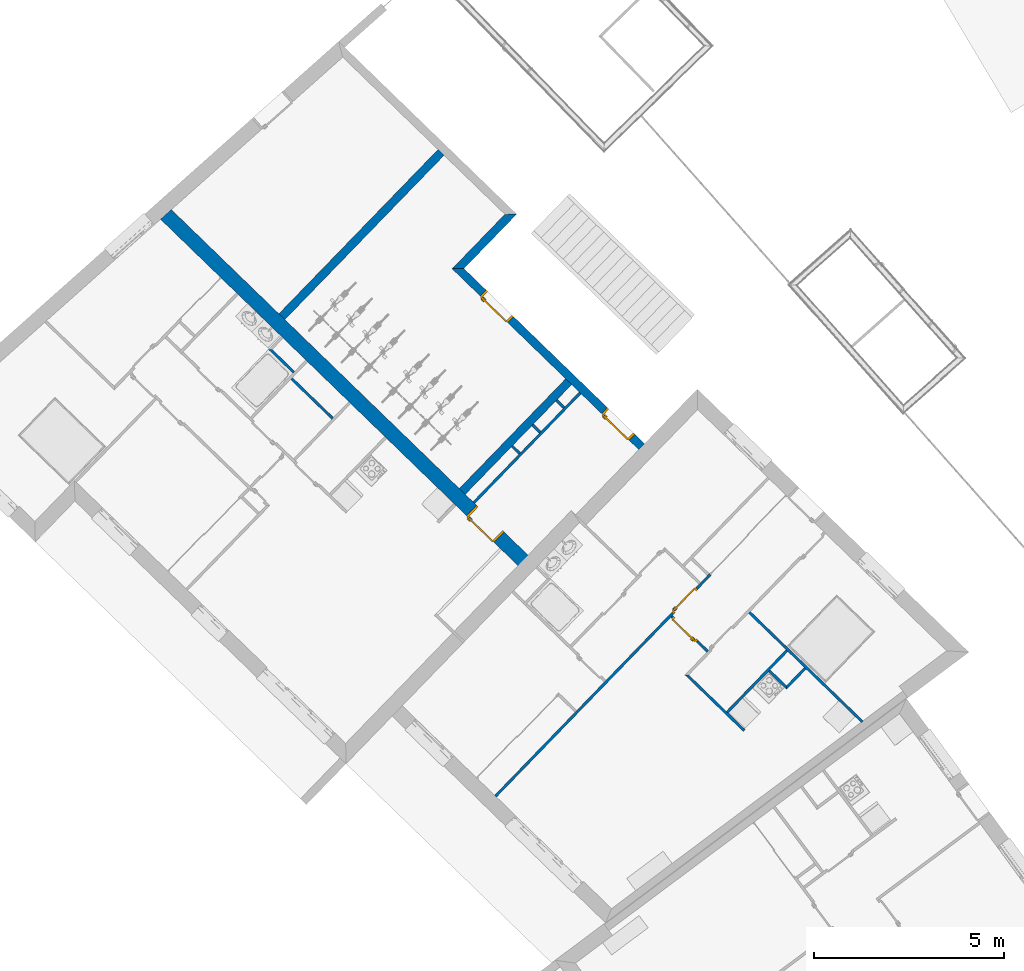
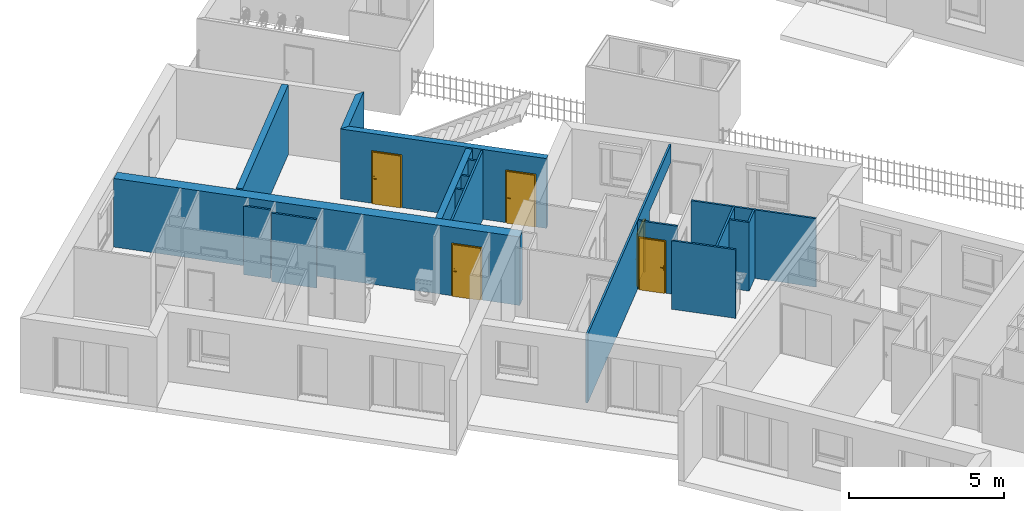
# One storey, part 21 of 195: 18 walls, 5 doors, 6 openings.
"""IFC2X3 building model written with IfcOpenShell, lengths in metres."""

from ifc_helpers import new_model, entity, si_unit, converted_unit, derived_unit, money_unit, direction, frame, origin_with_axes, origin_2d_with_axis, place, context, subcontext, project, spatial, polyline, rectangle, outline, extrude, faceted_brep, source, transform, mapped, material, layer, layer_set, layer_usage, type_object, element, fill, save


model = new_model("IFC2X3")

# Units and contexts
model_context = context("Model", 3, precision=1e-05, world=origin_with_axes(), true_north=direction((0.0, 1.0)))
body_context = subcontext(model_context, "Body", "Model", "MODEL_VIEW")
ifc_project = project(units=[si_unit("LENGTHUNIT", "METRE"), si_unit("AREAUNIT", "SQUARE_METRE"), si_unit("VOLUMEUNIT", "CUBIC_METRE"), converted_unit("PLANEANGLEUNIT", "DEGREE", entity("IfcPlaneAngleMeasure", 0.0174532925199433), si_unit("PLANEANGLEUNIT", "RADIAN"), dimensions=[0, 0, 0, 0, 0, 0, 0]), money_unit("CHF"), converted_unit("TIMEUNIT", "Year", entity("IfcTimeMeasure", 31557600.0), si_unit("TIMEUNIT", "SECOND"), dimensions=[0, 0, 1, 0, 0, 0, 0]), si_unit("MASSUNIT", "GRAM", prefix="KILO"), si_unit("THERMODYNAMICTEMPERATUREUNIT", "DEGREE_CELSIUS"), si_unit("LUMINOUSINTENSITYUNIT", "LUMEN"), si_unit("ENERGYUNIT", "JOULE", prefix="MEGA"), derived_unit("THERMALCONDUCTANCEUNIT", [(si_unit("POWERUNIT", "WATT"), 1), (si_unit("LENGTHUNIT", "METRE"), -1), (si_unit("THERMODYNAMICTEMPERATUREUNIT", "KELVIN"), -1)]), derived_unit("SPECIFICHEATCAPACITYUNIT", [(si_unit("ENERGYUNIT", "JOULE"), 1), (si_unit("MASSUNIT", "GRAM", prefix="KILO"), -1), (si_unit("THERMODYNAMICTEMPERATUREUNIT", "KELVIN"), -1)]), derived_unit("MASSDENSITYUNIT", [(si_unit("MASSUNIT", "GRAM", prefix="KILO"), 1), (si_unit("VOLUMEUNIT", "CUBIC_METRE"), -1)])], contexts=[model_context])

# Site, building, storey
site_placement = place(None, origin_with_axes())
site = spatial("IfcSite", under=ifc_project, at=site_placement, Name="Site", CompositionType="ELEMENT")
building_placement = place(site_placement, origin_with_axes())
building = spatial("IfcBuilding", under=site, at=building_placement, Name="Bâtiment", CompositionType="ELEMENT")
storey_placement = place(building_placement, origin_with_axes())
storey = spatial("IfcBuildingStorey", under=building, at=storey_placement, Name="rdc", CompositionType="ELEMENT", Elevation=0.0)

# Walls
ifc_material_1 = material(Name="Hachure solide 268963992")
ifc_layer_1 = layer(ifc_material_1, 0.07, ventilated="UNKNOWN")
ifc_layer_set_1 = layer_set([ifc_layer_1], Name="Cloison 70 0826278243")
ifc_layer_usage_1 = layer_usage(ifc_layer_set_1, "AXIS2", "NEGATIVE", 0.0)
wall_type_1 = type_object("IfcWallType", Name="Cloison 70 0826278243 70", PredefinedType="NOTDEFINED")
wall_1_placement = place(storey_placement, frame((9529.07926925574, -1061.525051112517, 57.7), z_axis=(0.0, 0.0, 1.0), x_axis=(-0.6958610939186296, -0.7181763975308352, 0.0)))
element("IfcWallStandardCase", 1, at=wall_1_placement, inside=storey, type_object=wall_type_1, material=ifc_layer_usage_1, Name="Mur-149", context=body_context, shape_type="SweptSolid", body=[
    extrude(outline(polyline([(0.2199999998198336, -0.07000000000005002), (4.253217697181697, -0.06999999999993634), (4.253217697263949, 0.0), (0.2199999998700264, 0.0), (0.2199999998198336, -0.07000000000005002)])), origin_with_axes(), (0.0, 0.0, 1.0), 2.7),
])
ifc_layer_usage_2 = layer_usage(ifc_layer_set_1, "AXIS2", "NEGATIVE", 0.0)
wall_2_placement = place(storey_placement, frame((9527.509666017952, -1062.325873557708, 57.7), z_axis=(0.0, 0.0, 1.0), x_axis=(0.7181763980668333, -0.6958610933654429, 0.0)))
element("IfcWallStandardCase", 2, at=wall_2_placement, inside=storey, type_object=wall_type_1, material=ifc_layer_usage_2, Name="Mur-149", context=body_context, shape_type="SweptSolid", body=[
    extrude(outline(polyline([(0.2200000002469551, -0.07000000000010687), (0.4999908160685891, -0.07000000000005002), (0.4999908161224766, 0.0), (0.2200000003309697, 0.0), (0.2200000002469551, -0.07000000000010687)])), origin_with_axes(), (0.0, 0.0, 1.0), 2.7),
])
ifc_layer_usage_3 = layer_usage(ifc_layer_set_1, "AXIS2", "NEGATIVE", 0.0)
wall_3_placement = place(storey_placement, frame((9526.96933931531, -1062.883527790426, 57.7), z_axis=(0.0, 0.0, 1.0), x_axis=(0.7181763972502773, -0.6958610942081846, 0.0)))
element("IfcWallStandardCase", 3, at=wall_3_placement, inside=storey, type_object=wall_type_1, material=ifc_layer_usage_3, Name="Mur-149", context=body_context, shape_type="SweptSolid", body=[
    extrude(outline(polyline([(0.2200000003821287, -0.06999999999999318), (0.4999908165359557, -0.06999999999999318), (0.499990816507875, 0.0), (0.220000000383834, 0.0), (0.2200000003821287, -0.06999999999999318)])), origin_with_axes(), (0.0, 0.0, 1.0), 2.7),
])
ifc_layer_usage_4 = layer_usage(ifc_layer_set_1, "AXIS2", "NEGATIVE", 0.0)
wall_4_placement = place(storey_placement, frame((9528.139602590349, -1061.675735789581, 57.7), z_axis=(0.0, 0.0, 1.0), x_axis=(0.7181763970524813, -0.6958610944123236, 0.0)))
element("IfcWallStandardCase", 4, at=wall_4_placement, inside=storey, type_object=wall_type_1, material=ifc_layer_usage_4, Name="Mur-149", context=body_context, shape_type="SweptSolid", body=[
    extrude(outline(polyline([(0.2200000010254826, -0.06999999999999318), (0.4999908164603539, -0.06999999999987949), (0.4999908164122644, 0.0), (0.2200000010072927, 0.0), (0.2200000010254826, -0.06999999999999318)])), origin_with_axes(), (0.0, 0.0, 1.0), 2.7),
])
ifc_layer_usage_5 = layer_usage(ifc_layer_set_1, "AXIS2", "NEGATIVE", 0.0)
wall_5_placement = place(storey_placement, frame((9522.396829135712, -1062.405013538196, 57.7), z_axis=(0.0, 0.0, 1.0), x_axis=(-0.7181763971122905, 0.6958610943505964, 0.0)))
element("IfcWallStandardCase", 5, at=wall_5_placement, inside=storey, type_object=wall_type_1, material=ifc_layer_usage_5, Name="Mur-149", context=body_context, shape_type="SweptSolid", body=[
    extrude(outline(polyline([(0.07000000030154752, -0.06999999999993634), (1.58000000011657, -0.06999999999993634), (1.580000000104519, 0.0), (0.07000000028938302, 0.0), (0.07000000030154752, -0.06999999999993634)])), origin_with_axes(), (0.0, 0.0, 1.0), 2.7),
])
ifc_layer_usage_6 = layer_usage(ifc_layer_set_1, "AXIS2", "NEGATIVE", 0.0)
wall_6_placement = place(storey_placement, frame((9533.198582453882, -1070.586584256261, 57.7), z_axis=(0.0, 0.0, 1.0), x_axis=(-0.7181763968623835, 0.6958610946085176, 0.0)))
element("IfcWallStandardCase", 6, at=wall_6_placement, inside=storey, type_object=wall_type_1, material=ifc_layer_usage_6, Name="Mur-149", context=body_context, shape_type="SweptSolid", body=[
    extrude(outline(polyline([(0.0, -0.06999999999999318), (2.068788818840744, -0.06999999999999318), (2.138788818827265, 0.0), (0.0, 0.0), (0.0, -0.06999999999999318)])), origin_with_axes(), (0.0, 0.0, 1.0), 2.7),
])
ifc_layer_usage_7 = layer_usage(ifc_layer_set_1, "AXIS2", "POSITIVE", 0.0)
wall_7_placement = place(storey_placement, frame((9534.3766670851, -1068.380883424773, 57.7), z_axis=(0.0, 0.0, 1.0), x_axis=(-0.6958610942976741, -0.7181763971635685, 0.0)))
element("IfcWallStandardCase", 7, at=wall_7_placement, inside=storey, type_object=wall_type_1, material=ifc_layer_usage_7, Name="Mur-149", context=body_context, shape_type="SweptSolid", body=[
    extrude(outline(polyline([(0.07000000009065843, 0.0), (2.333865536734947, 0.0), (2.333865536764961, 0.06999999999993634), (0.07000000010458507, 0.06999999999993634), (0.07000000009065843, 0.0)])), origin_with_axes(), (0.0, 0.0, 1.0), 2.7),
])
ifc_layer_usage_8 = layer_usage(ifc_layer_set_1, "AXIS2", "POSITIVE", 0.0)
wall_8_placement = place(storey_placement, frame((9534.341174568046, -1069.380349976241, 57.7), z_axis=(0.0, 0.0, 1.0), x_axis=(-0.7181763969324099, 0.6958610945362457, 0.0)))
element("IfcWallStandardCase", 8, at=wall_8_placement, inside=storey, type_object=wall_type_1, material=ifc_layer_usage_8, Name="Mur-149", context=body_context, shape_type="SweptSolid", body=[
    extrude(outline(polyline([(0.0, 0.0), (0.6000000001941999, 0.0), (0.600000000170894, 0.06999999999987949), (-0.07000000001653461, 0.06999999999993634), (0.0, 0.0)])), origin_with_axes(), (0.0, 0.0, 1.0), 2.7),
])
ifc_layer_usage_9 = layer_usage(ifc_layer_set_1, "AXIS2", "POSITIVE", 0.0)
wall_9_placement = place(storey_placement, frame((9534.857845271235, -1068.847110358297, 57.7), z_axis=(0.0, 0.0, 1.0), x_axis=(-0.6958610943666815, -0.7181763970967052, 0.0)))
element("IfcWallStandardCase", 9, at=wall_9_placement, inside=storey, type_object=wall_type_1, material=ifc_layer_usage_9, Name="Mur-149", context=body_context, shape_type="SweptSolid", body=[
    extrude(outline(polyline([(0.07000000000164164, 0.0), (0.7424911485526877, 0.0), (0.8124911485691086, 0.06999999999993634), (0.0700000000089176, 0.06999999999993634), (0.07000000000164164, 0.0)])), origin_with_axes(), (0.0, 0.0, 1.0), 2.7),
])

# Wall, opening, door
ifc_layer_usage_10 = layer_usage(ifc_layer_set_1, "AXIS2", "POSITIVE", 0.0)
wall_10_placement = place(storey_placement, frame((9532.287422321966, -1068.453378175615, 57.7), z_axis=(0.0, 0.0, 1.0), x_axis=(-0.7181763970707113, 0.695861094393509, 0.0)))
wall_10 = element("IfcWallStandardCase", 10, at=wall_10_placement, inside=storey, type_object=wall_type_1, material=ifc_layer_usage_10, Name="Mur-149", context=body_context, shape_type="SweptSolid", body=[
    extrude(outline(polyline([(1.928128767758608e-10, 0.0), (1.328117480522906, 0.0), (1.328117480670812, 0.07000000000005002), (2.004298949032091e-10, 0.07000000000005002), (1.928128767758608e-10, 0.0)])), origin_with_axes(), (0.0, 0.0, 1.0), 2.7),
])
opening_1_placement = place(wall_10_placement, frame((0.8422098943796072, 0.0, 0.0), z_axis=(0.0, 0.0, 1.0), x_axis=(1.0, 0.0, 0.0)))
opening_1 = element("IfcOpeningElement", 11, at=opening_1_placement, cuts=wall_10, Name="Por-317", context=body_context, shape_type="SweptSolid", body=[
    extrude(rectangle(XDim=0.9099999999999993, YDim=2.079999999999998, at=origin_2d_with_axis()), frame((0.0, -0.07000000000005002, 1.039999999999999), z_axis=(0.0, 1.0, 0.0), x_axis=(1.0, 0.0, 0.0)), (0.0, 0.0, 1.0), 0.14),
])
door_style = type_object("IfcDoorStyle", Name="Porte_1v", ConstructionType="NOTDEFINED", OperationType="NOTDEFINED", ParameterTakesPrecedence=False, Sizeable=False)
shared_shape_1 = source(origin_with_axes(), body_context, "Body", "Brep", [
    faceted_brep([(0.455, 0.0, 0.0), (0.415, 0.0, 0.0), (0.415, 0.0, 2.04), (-0.415, 0.0, 2.04), (-0.415, 0.0, 0.0), (-0.455, 0.0, 0.0), (-0.455, 0.0, 2.08), (0.455, 0.0, 2.08), (0.455, -0.07, 0.0), (0.4, -0.07, 0.0), (0.4, -0.015, 0.0), (0.415, -0.015, 0.0), (0.415, -0.015, 2.04), (-0.415, -0.015, 2.04), (-0.415, -0.015, 0.0), (-0.4, -0.015, 0.0), (-0.4, -0.07, 0.0), (-0.455, -0.07, 0.0), (-0.455, -0.07, 2.08), (0.455, -0.07, 2.08), (-0.4, -0.07, 2.025), (0.4, -0.07, 2.025), (0.4, -0.015, 2.025), (-0.4, -0.015, 2.025)], [[[0, 1, 2, 3, 4, 5, 6, 7]], [[0, 8, 9, 10, 11, 1]], [[1, 11, 12, 2]], [[2, 12, 13, 3]], [[3, 13, 14, 4]], [[5, 4, 14, 15, 16, 17]], [[18, 6, 5, 17]], [[19, 7, 6, 18]], [[8, 0, 7, 19]], [[9, 8, 19, 18, 17, 16, 20, 21]], [[10, 9, 21, 22]], [[11, 10, 22, 23, 15, 14, 13, 12]], [[23, 20, 16, 15]], [[22, 21, 20, 23]]]),
    faceted_brep([(-0.35, -0.015, 0.9), (-0.39, -0.015, 0.9), (-0.39, -0.015, 1.1), (-0.35, -0.015, 1.1), (-0.35, -0.025, 0.9), (-0.39, -0.025, 0.9), (-0.39, -0.025, 1.1), (-0.35, -0.025, 1.1)], [[[0, 1, 2, 3]], [[1, 0, 4, 5]], [[2, 1, 5, 6]], [[3, 2, 6, 7]], [[0, 3, 7, 4]], [[5, 4, 7, 6]]]),
    faceted_brep([(-0.28, -0.025, 1.0), (-0.38, -0.025, 1.0), (-0.38, -0.025, 1.02), (-0.28, -0.025, 1.02), (-0.28, -0.045, 1.0), (-0.38, -0.045, 1.0), (-0.38, -0.045, 1.02), (-0.28, -0.045, 1.02)], [[[0, 1, 2, 3]], [[1, 0, 4, 5]], [[2, 1, 5, 6]], [[3, 2, 6, 7]], [[0, 3, 7, 4]], [[5, 4, 7, 6]]]),
    faceted_brep([(-0.35, 0.035, 0.9), (-0.39, 0.035, 0.9), (-0.39, 0.035, 1.1), (-0.35, 0.035, 1.1), (-0.35, 0.025, 0.9), (-0.39, 0.025, 0.9), (-0.39, 0.025, 1.1), (-0.35, 0.025, 1.1)], [[[0, 1, 2, 3]], [[1, 0, 4, 5]], [[2, 1, 5, 6]], [[3, 2, 6, 7]], [[0, 3, 7, 4]], [[5, 4, 7, 6]]]),
    faceted_brep([(-0.28, 0.05500000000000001, 1.0), (-0.38, 0.05500000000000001, 1.0), (-0.38, 0.05500000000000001, 1.02), (-0.28, 0.05500000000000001, 1.02), (-0.28, 0.035, 1.0), (-0.38, 0.035, 1.0), (-0.38, 0.035, 1.02), (-0.28, 0.035, 1.02)], [[[0, 1, 2, 3]], [[1, 0, 4, 5]], [[2, 1, 5, 6]], [[3, 2, 6, 7]], [[0, 3, 7, 4]], [[5, 4, 7, 6]]]),
    faceted_brep([(-0.415, 0.025, 0.0), (0.415, 0.025, 0.0), (0.415, -0.015, 0.0), (-0.415, -0.015, 0.0), (-0.415, 0.025, 2.04), (0.415, 0.025, 2.04), (0.415, -0.015, 2.04), (-0.415, -0.015, 2.04)], [[[0, 1, 2, 3]], [[0, 4, 5, 1]], [[1, 5, 6, 2]], [[3, 2, 6, 7]], [[4, 0, 3, 7]], [[5, 4, 7, 6]]]),
])
door_1_placement = place(opening_1_placement, frame((-0.4149999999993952, 0.0, 0.0), z_axis=(0.0, 0.0, 1.0), x_axis=(1.0, 0.0, 0.0)))
door_1 = element("IfcDoor", 12, at=door_1_placement, inside=storey, type_object=door_style, Name="Por-317", OverallHeight=2.04, OverallWidth=0.83, context=body_context, shape_type="MappedRepresentation", body=[
    mapped(shared_shape_1, transform((0.4149999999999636, 0.06999999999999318, 0.0))),
])
fill(opening_1, door_1)

# Wall
ifc_layer_usage_11 = layer_usage(ifc_layer_set_1, "AXIS2", "POSITIVE", 0.0)
wall_11_placement = place(storey_placement, frame((9536.370036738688, -1070.312314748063, 57.7), z_axis=(0.0, 0.0, 1.0), x_axis=(-0.7181763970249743, 0.6958610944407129, 0.0)))
element("IfcWallStandardCase", 13, at=wall_11_placement, inside=storey, type_object=wall_type_1, material=ifc_layer_usage_11, Name="Mur-149", context=body_context, shape_type="SweptSolid", body=[
    extrude(outline(polyline([(0.0, 0.0), (4.155598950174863, 0.0), (4.155598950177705, 0.06999999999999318), (0.0, 0.07000000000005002), (0.0, 0.0)])), origin_with_axes(), (0.0, 0.0, 1.0), 2.7),
])

# Wall, openings, door
ifc_layer_usage_12 = layer_usage(ifc_layer_set_1, "AXIS2", "POSITIVE", 0.0)
wall_12_placement = place(storey_placement, frame((9534.584027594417, -1064.073933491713, 57.7), z_axis=(0.0, 0.0, 1.0), x_axis=(-0.695861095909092, -0.7181763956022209, 0.0)))
wall_12 = element("IfcWallStandardCase", 14, at=wall_12_placement, inside=storey, type_object=wall_type_1, material=ifc_layer_usage_12, Name="Mur-149", context=body_context, shape_type="SweptSolid", body=[
    extrude(outline(polyline([(0.3799999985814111, 0.0), (11.41300708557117, 0.0), (11.41300708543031, 0.06999999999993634), (0.3799999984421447, 0.07000000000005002), (0.3799999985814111, 0.0)])), origin_with_axes(), (0.0, 0.0, 1.0), 2.7),
])
opening_2_placement = place(wall_12_placement, frame((4.240435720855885, 0.0, 0.0), z_axis=(0.0, 0.0, 1.0), x_axis=(1.0, 0.0, 0.0)))
opening_2 = element("IfcOpeningElement", 15, at=opening_2_placement, cuts=wall_12, Name="Por-315", context=body_context, shape_type="SweptSolid", body=[
    extrude(rectangle(XDim=0.9099999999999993, YDim=2.079999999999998, at=origin_2d_with_axis()), frame((0.0, 0.06999999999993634, 1.039999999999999), z_axis=(0.0, -1.0, 0.0), x_axis=(-1.0, 0.0, 0.0)), (0.0, 0.0, 1.0), 0.14),
])
opening_3_placement = place(wall_12_placement, frame((1.828267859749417, 0.0, 0.0), z_axis=(0.0, 0.0, 1.0), x_axis=(1.0, 0.0, 0.0)))
element("IfcOpeningElement", 16, at=opening_3_placement, cuts=wall_12, Name="Por-342", context=body_context, shape_type="SweptSolid", body=[
    extrude(rectangle(XDim=2.896535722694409, YDim=2.0, at=origin_2d_with_axis()), frame((0.0, 0.0, 1.0), z_axis=(0.0, 1.0, 0.0), x_axis=(1.0, 0.0, 0.0)), (0.0, 0.0, -1.0), 0.07),
    extrude(rectangle(XDim=2.896535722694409, YDim=2.0, at=origin_2d_with_axis()), frame((0.0, 0.0, 1.0), z_axis=(0.0, -1.0, 0.0), x_axis=(1.0, 0.0, 0.0)), (0.0, 0.0, -1.0), 0.07),
])
door_2_placement = place(opening_2_placement, frame((0.4149999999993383, 0.0, 0.0), z_axis=(0.0, 0.0, 1.0), x_axis=(-1.0, 0.0, 0.0)))
door_2 = element("IfcDoor", 17, at=door_2_placement, inside=storey, type_object=door_style, Name="Por-315", OverallHeight=2.04, OverallWidth=0.83, context=body_context, shape_type="MappedRepresentation", body=[
    mapped(shared_shape_1, transform((0.4150000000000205, 0.0, 0.0))),
])
fill(opening_2, door_2)

# Wall
ifc_layer_usage_13 = layer_usage(ifc_layer_set_1, "AXIS2", "NEGATIVE", 0.0)
wall_13_placement = place(storey_placement, frame((9520.777043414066, -1060.512813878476, 57.7), z_axis=(0.0, 0.0, 1.0), x_axis=(0.7181763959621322, -0.6958610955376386, 0.0)))
element("IfcWallStandardCase", 18, at=wall_13_placement, inside=storey, type_object=wall_type_1, material=ifc_layer_usage_13, Name="Mur-149", context=body_context, shape_type="SweptSolid", body=[
    extrude(outline(polyline([(-0.06999999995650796, -0.07000000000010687), (0.8299999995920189, -0.06999999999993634), (0.8299999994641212, 0.0), (0.0, 0.0), (-0.06999999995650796, -0.07000000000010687)])), origin_with_axes(), (0.0, 0.0, 1.0), 2.7),
])

# Wall, opening, door
ifc_material_2 = material(Name="Parpaing 312445824")
ifc_layer_2 = layer(ifc_material_2, 0.22, ventilated="UNKNOWN")
ifc_material_3 = material(Name="Isolant styromousse 301821074")
ifc_layer_3 = layer(ifc_material_3, 0.16, ventilated="UNKNOWN")
ifc_layer_set_2 = layer_set([ifc_layer_2, ifc_layer_3], Name="isol int 22+16 0836643197")
ifc_layer_usage_14 = layer_usage(ifc_layer_set_2, "AXIS2", "NEGATIVE", 0.0)
wall_type_2 = type_object("IfcWallType", Name="isol int 22+16 0836643197 380", PredefinedType="NOTDEFINED")
wall_14_placement = place(storey_placement, frame((9517.843731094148, -1056.560872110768, 57.7), z_axis=(0.0, 0.0, 1.0), x_axis=(0.7181763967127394, -0.6958610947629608, 0.0)))
wall_14 = element("IfcWallStandardCase", 19, at=wall_14_placement, inside=storey, type_object=wall_type_2, material=ifc_layer_usage_14, Name="Mur-116", context=body_context, shape_type="SweptSolid", body=[
    extrude(outline(polyline([(0.3528672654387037, -0.3799999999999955), (13.85944766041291, -0.3799999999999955), (13.8594476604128, 0.0), (0.3810431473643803, 0.0), (0.3528672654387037, -0.3799999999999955)])), origin_with_axes(), (0.0, 0.0, 1.0), 2.7),
])
opening_4_placement = place(wall_14_placement, frame((12.09553631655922, 0.0, 0.0), z_axis=(0.0, 0.0, 1.0), x_axis=(1.0, 0.0, 0.0)))
opening_4 = element("IfcOpeningElement", 20, at=opening_4_placement, cuts=wall_14, Name="Por-299", context=body_context, shape_type="SweptSolid", body=[
    extrude(rectangle(XDim=1.01000001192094, YDim=2.079999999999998, at=origin_2d_with_axis()), frame((5.960373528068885e-09, 0.3799999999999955, 1.039999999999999), z_axis=(0.0, 1.0, 0.0), x_axis=(1.0, 0.0, 0.0)), (0.0, 0.0, -1.0), 0.76),
])
shared_shape_2 = source(origin_with_axes(), body_context, "Body", "Brep", [
    faceted_brep([(-0.505, 0.0, 0.0), (-0.505, 0.0, 2.08), (0.505, 0.0, 2.08), (0.505, 0.0, 0.0), (0.465, 0.0, 0.0), (0.465, 0.0, 2.04), (-0.465, 0.0, 2.04), (-0.465, 0.0, 0.0), (-0.505, -0.38, 0.0), (-0.505, -0.38, 2.08), (0.505, -0.38, 2.08), (0.505, -0.38, 0.0), (0.45, -0.38, 0.0), (0.45, -0.015, 0.0), (0.465, -0.015, 0.0), (0.465, -0.015, 2.04), (-0.465, -0.015, 2.04), (-0.465, -0.015, 0.0), (-0.45, -0.015, 0.0), (-0.45, -0.38, 0.0), (-0.45, -0.38, 2.025), (0.45, -0.38, 2.025), (0.45, -0.015, 2.025), (-0.45, -0.015, 2.025)], [[[0, 1, 2, 3, 4, 5, 6, 7]], [[8, 9, 1, 0]], [[9, 10, 2, 1]], [[10, 11, 3, 2]], [[3, 11, 12, 13, 14, 4]], [[5, 4, 14, 15]], [[6, 5, 15, 16]], [[7, 6, 16, 17]], [[0, 7, 17, 18, 19, 8]], [[19, 20, 21, 12, 11, 10, 9, 8]], [[22, 13, 12, 21]], [[17, 16, 15, 14, 13, 22, 23, 18]], [[18, 23, 20, 19]], [[23, 22, 21, 20]]]),
    faceted_brep([(0.4, -0.015, 0.9), (0.4, -0.015, 1.1), (0.44, -0.015, 1.1), (0.44, -0.015, 0.9), (0.4, -0.025, 0.9), (0.4, -0.025, 1.1), (0.44, -0.025, 1.1), (0.44, -0.025, 0.9)], [[[0, 1, 2, 3]], [[0, 4, 5, 1]], [[1, 5, 6, 2]], [[2, 6, 7, 3]], [[3, 7, 4, 0]], [[7, 6, 5, 4]]]),
    faceted_brep([(0.33, -0.025, 1.0), (0.33, -0.025, 1.02), (0.43, -0.025, 1.02), (0.43, -0.025, 1.0), (0.33, -0.045, 1.0), (0.33, -0.045, 1.02), (0.43, -0.045, 1.02), (0.43, -0.045, 1.0)], [[[0, 1, 2, 3]], [[0, 4, 5, 1]], [[1, 5, 6, 2]], [[2, 6, 7, 3]], [[3, 7, 4, 0]], [[7, 6, 5, 4]]]),
    faceted_brep([(0.4, 0.035, 0.9), (0.4, 0.035, 1.1), (0.44, 0.035, 1.1), (0.44, 0.035, 0.9), (0.4, 0.025, 0.9), (0.4, 0.025, 1.1), (0.44, 0.025, 1.1), (0.44, 0.025, 0.9)], [[[0, 1, 2, 3]], [[0, 4, 5, 1]], [[1, 5, 6, 2]], [[2, 6, 7, 3]], [[3, 7, 4, 0]], [[7, 6, 5, 4]]]),
    faceted_brep([(0.33, 0.05500000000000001, 1.0), (0.33, 0.05500000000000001, 1.02), (0.43, 0.05500000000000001, 1.02), (0.43, 0.05500000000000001, 1.0), (0.33, 0.035, 1.0), (0.33, 0.035, 1.02), (0.43, 0.035, 1.02), (0.43, 0.035, 1.0)], [[[0, 1, 2, 3]], [[0, 4, 5, 1]], [[1, 5, 6, 2]], [[2, 6, 7, 3]], [[3, 7, 4, 0]], [[7, 6, 5, 4]]]),
    faceted_brep([(0.465, 0.025, 0.0), (0.465, -0.015, 0.0), (-0.465, -0.015, 0.0), (-0.465, 0.025, 0.0), (0.465, 0.025, 2.04), (0.465, -0.015, 2.04), (-0.465, -0.015, 2.04), (-0.465, 0.025, 2.04)], [[[0, 1, 2, 3]], [[4, 5, 1, 0]], [[1, 5, 6, 2]], [[3, 2, 6, 7]], [[0, 3, 7, 4]], [[7, 6, 5, 4]]]),
])
door_3_placement = place(opening_4_placement, frame((0.4649999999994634, 0.0, 0.0), z_axis=(0.0, 0.0, 1.0), x_axis=(-1.0, 0.0, 0.0)))
door_3 = element("IfcDoor", 21, at=door_3_placement, inside=storey, type_object=door_style, Name="Por-299", OverallHeight=2.04, OverallWidth=0.93, context=body_context, shape_type="MappedRepresentation", body=[
    mapped(shared_shape_2, transform((0.4650000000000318, 0.3799999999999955, 0.0))),
])
fill(opening_4, door_3)

# Wall
ifc_layer_4 = layer(ifc_material_2, 0.22, ventilated="UNKNOWN")
ifc_layer_set_3 = layer_set([ifc_layer_4], Name="Beton  22 0836643198")
ifc_layer_usage_15 = layer_usage(ifc_layer_set_3, "AXIS2", "POSITIVE", 0.0)
wall_type_3 = type_object("IfcWallType", Name="Beton  22 0836643198 220", PredefinedType="NOTDEFINED")
wall_15_placement = place(storey_placement, frame((9528.669915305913, -1061.12841668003, 57.7), z_axis=(0.0, 0.0, 1.0), x_axis=(-0.6958610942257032, -0.7181763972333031, 0.0)))
element("IfcWallStandardCase", 22, at=wall_15_placement, inside=storey, type_object=wall_type_3, material=ifc_layer_usage_15, Name="Mur-105", context=body_context, shape_type="SweptSolid", body=[
    extrude(outline(polyline([(0.2199999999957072, 0.0), (4.253217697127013, 0.0), (4.253217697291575, 0.220000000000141), (0.2200000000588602, 0.2200000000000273), (0.2199999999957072, 0.0)])), origin_with_axes(), (0.0, 0.0, 1.0), 2.7),
])

# Wall, openings, doors
ifc_layer_usage_16 = layer_usage(ifc_layer_set_3, "AXIS2", "POSITIVE", 0.0)
wall_16_placement = place(storey_placement, frame((9530.598145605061, -1062.996732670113, 57.7), z_axis=(0.0, 0.0, 1.0), x_axis=(-0.718176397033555, 0.6958610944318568, 0.0)))
wall_16 = element("IfcWallStandardCase", 23, at=wall_16_placement, inside=storey, type_object=wall_type_3, material=ifc_layer_usage_16, Name="Mur-106", context=body_context, shape_type="SweptSolid", body=[
    extrude(outline(polyline([(0.0, 0.0), (6.633994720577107, 0.0), (6.853994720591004, 0.2200000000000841), (0.0, 0.2200000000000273), (0.0, 0.0)])), origin_with_axes(), (0.0, 0.0, 1.0), 2.75),
])
opening_5_placement = place(wall_16_placement, frame((0.8610350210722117, 0.0, 0.0), z_axis=(0.0, 0.0, 1.0), x_axis=(1.0, 0.0, 0.0)))
opening_5 = element("IfcOpeningElement", 24, at=opening_5_placement, cuts=wall_16, Name="Por-300", context=body_context, shape_type="SweptSolid", body=[
    extrude(rectangle(XDim=1.01000001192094, YDim=2.079999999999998, at=origin_2d_with_axis()), frame((-5.960373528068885e-09, -0.2199999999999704, 1.039999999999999), z_axis=(0.0, -1.0, 0.0), x_axis=(-1.0, 0.0, 0.0)), (0.0, 0.0, -1.0), 0.44),
])
opening_6_placement = place(wall_16_placement, frame((5.316381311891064, 0.0, 0.0), z_axis=(0.0, 0.0, 1.0), x_axis=(1.0, 0.0, 0.0)))
opening_6 = element("IfcOpeningElement", 25, at=opening_6_placement, cuts=wall_16, Name="Por-300", context=body_context, shape_type="SweptSolid", body=[
    extrude(rectangle(XDim=1.01000001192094, YDim=2.079999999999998, at=origin_2d_with_axis()), frame((-5.960487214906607e-09, -0.2200000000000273, 1.039999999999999), z_axis=(0.0, -1.0, 0.0), x_axis=(-1.0, 0.0, 0.0)), (0.0, 0.0, -1.0), 0.44),
])
shared_shape_3 = source(origin_with_axes(), body_context, "Body", "Brep", [
    faceted_brep([(-0.505, 0.0, 0.0), (-0.505, 0.0, 2.08), (0.505, 0.0, 2.08), (0.505, 0.0, 0.0), (0.465, 0.0, 0.0), (0.465, 0.0, 2.04), (-0.465, 0.0, 2.04), (-0.465, 0.0, 0.0), (-0.505, -0.22, 0.0), (-0.505, -0.22, 2.08), (0.505, -0.22, 2.08), (0.505, -0.22, 0.0), (0.45, -0.22, 0.0), (0.45, -0.015, 0.0), (0.465, -0.015, 0.0), (0.465, -0.015, 2.04), (-0.465, -0.015, 2.04), (-0.465, -0.015, 0.0), (-0.45, -0.015, 0.0), (-0.45, -0.22, 0.0), (-0.45, -0.22, 2.025), (0.45, -0.22, 2.025), (0.45, -0.015, 2.025), (-0.45, -0.015, 2.025)], [[[0, 1, 2, 3, 4, 5, 6, 7]], [[8, 9, 1, 0]], [[9, 10, 2, 1]], [[10, 11, 3, 2]], [[3, 11, 12, 13, 14, 4]], [[5, 4, 14, 15]], [[6, 5, 15, 16]], [[7, 6, 16, 17]], [[0, 7, 17, 18, 19, 8]], [[19, 20, 21, 12, 11, 10, 9, 8]], [[22, 13, 12, 21]], [[17, 16, 15, 14, 13, 22, 23, 18]], [[18, 23, 20, 19]], [[23, 22, 21, 20]]]),
    faceted_brep([(0.4, -0.015, 0.9), (0.4, -0.015, 1.1), (0.44, -0.015, 1.1), (0.44, -0.015, 0.9), (0.4, -0.025, 0.9), (0.4, -0.025, 1.1), (0.44, -0.025, 1.1), (0.44, -0.025, 0.9)], [[[0, 1, 2, 3]], [[0, 4, 5, 1]], [[1, 5, 6, 2]], [[2, 6, 7, 3]], [[3, 7, 4, 0]], [[7, 6, 5, 4]]]),
    faceted_brep([(0.33, -0.025, 1.0), (0.33, -0.025, 1.02), (0.43, -0.025, 1.02), (0.43, -0.025, 1.0), (0.33, -0.045, 1.0), (0.33, -0.045, 1.02), (0.43, -0.045, 1.02), (0.43, -0.045, 1.0)], [[[0, 1, 2, 3]], [[0, 4, 5, 1]], [[1, 5, 6, 2]], [[2, 6, 7, 3]], [[3, 7, 4, 0]], [[7, 6, 5, 4]]]),
    faceted_brep([(0.4, 0.035, 0.9), (0.4, 0.035, 1.1), (0.44, 0.035, 1.1), (0.44, 0.035, 0.9), (0.4, 0.025, 0.9), (0.4, 0.025, 1.1), (0.44, 0.025, 1.1), (0.44, 0.025, 0.9)], [[[0, 1, 2, 3]], [[0, 4, 5, 1]], [[1, 5, 6, 2]], [[2, 6, 7, 3]], [[3, 7, 4, 0]], [[7, 6, 5, 4]]]),
    faceted_brep([(0.33, 0.05500000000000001, 1.0), (0.33, 0.05500000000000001, 1.02), (0.43, 0.05500000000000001, 1.02), (0.43, 0.05500000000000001, 1.0), (0.33, 0.035, 1.0), (0.33, 0.035, 1.02), (0.43, 0.035, 1.02), (0.43, 0.035, 1.0)], [[[0, 1, 2, 3]], [[0, 4, 5, 1]], [[1, 5, 6, 2]], [[2, 6, 7, 3]], [[3, 7, 4, 0]], [[7, 6, 5, 4]]]),
    faceted_brep([(0.465, 0.025, 0.0), (0.465, -0.015, 0.0), (-0.465, -0.015, 0.0), (-0.465, 0.025, 0.0), (0.465, 0.025, 2.04), (0.465, -0.015, 2.04), (-0.465, -0.015, 2.04), (-0.465, 0.025, 2.04)], [[[0, 1, 2, 3]], [[4, 5, 1, 0]], [[1, 5, 6, 2]], [[3, 2, 6, 7]], [[0, 3, 7, 4]], [[7, 6, 5, 4]]]),
])
door_4_placement = place(opening_5_placement, frame((-0.4649999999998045, 0.0, 0.0), z_axis=(0.0, 0.0, 1.0), x_axis=(1.0, 0.0, 0.0)))
door_4 = element("IfcDoor", 26, at=door_4_placement, inside=storey, type_object=door_style, Name="Por-300", OverallHeight=2.04, OverallWidth=0.93, context=body_context, shape_type="MappedRepresentation", body=[
    mapped(shared_shape_3, transform((0.4650000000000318, 0.2200000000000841, 0.0))),
])
fill(opening_5, door_4)
door_5_placement = place(opening_6_placement, frame((-0.4650000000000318, 0.0, 0.0), z_axis=(0.0, 0.0, 1.0), x_axis=(1.0, 0.0, 0.0)))
door_5 = element("IfcDoor", 27, at=door_5_placement, inside=storey, type_object=door_style, Name="Por-300", OverallHeight=2.04, OverallWidth=0.93, context=body_context, shape_type="MappedRepresentation", body=[
    mapped(shared_shape_3, transform((0.4650000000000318, 0.2200000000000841, 0.0))),
])
fill(opening_6, door_5)

# Walls
ifc_layer_usage_17 = layer_usage(ifc_layer_set_3, "AXIS2", "POSITIVE", 0.0)
wall_17_placement = place(storey_placement, frame((9525.833767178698, -1058.380393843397, 57.7), z_axis=(0.0, 0.0, 1.0), x_axis=(0.6958610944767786, 0.7181763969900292, 0.0)))
element("IfcWallStandardCase", 28, at=wall_17_placement, inside=storey, type_object=wall_type_3, material=ifc_layer_usage_17, Name="Mur-107", context=body_context, shape_type="SweptSolid", body=[
    extrude(outline(polyline([(0.0, 0.0), (2.000000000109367, 0.0), (1.780000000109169, 0.2200000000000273), (-0.2200000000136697, 0.2200000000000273), (0.0, 0.0)])), origin_with_axes(), (0.0, 0.0, 1.0), 2.75),
])
ifc_layer_usage_18 = layer_usage(ifc_layer_set_3, "AXIS2", "POSITIVE", 0.0)
wall_18_placement = place(storey_placement, frame((9521.1105595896, -1059.726193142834, 57.7), z_axis=(0.0, 0.0, 1.0), x_axis=(0.6958610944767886, 0.7181763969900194, 0.0)))
element("IfcWallStandardCase", 29, at=wall_18_placement, inside=storey, type_object=wall_type_3, material=ifc_layer_usage_18, Name="Mur-107", context=body_context, shape_type="SweptSolid", body=[
    extrude(outline(polyline([(0.0, 0.0), (6.033217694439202, 0.0), (6.033217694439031, 0.2200000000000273), (0.0, 0.2200000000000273), (0.0, 0.0)])), origin_with_axes(), (0.0, 0.0, 1.0), 2.75),
])

save(model, "model.ifc")
